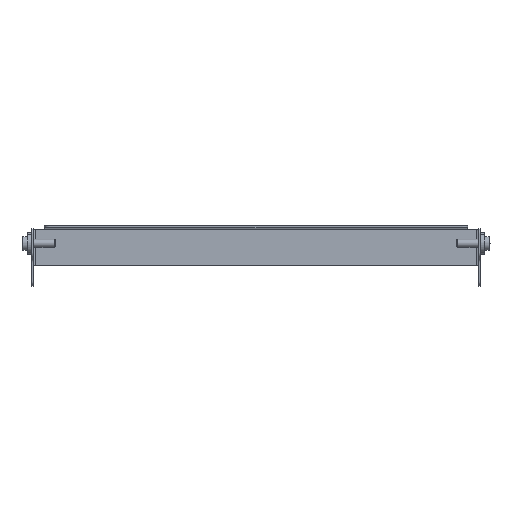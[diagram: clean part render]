
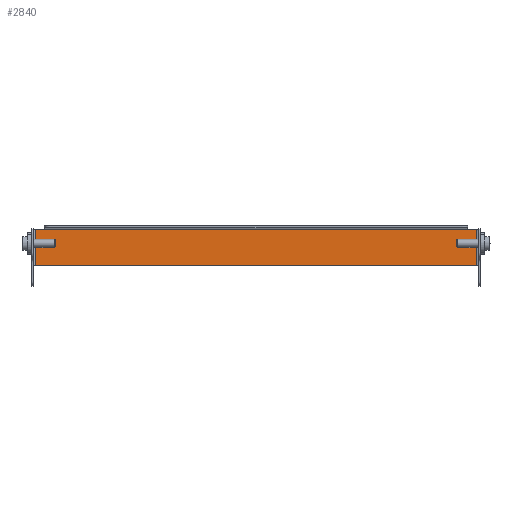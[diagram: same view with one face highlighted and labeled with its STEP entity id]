
A CAD part, top view. The second image highlights one B-rep face of the part: STEP entity #2840.
In plain terms, the highlighted planar face has unit normal (0, 0, 1).
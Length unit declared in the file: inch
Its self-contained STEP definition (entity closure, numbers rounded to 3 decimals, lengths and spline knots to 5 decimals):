
#17 = DIRECTION ( 'NONE',  ( 0., 0., 1. ) ) ;
#39 = VECTOR ( 'NONE', #714, 39.37008 ) ;
#111 = DIRECTION ( 'NONE',  ( 0., 1., 0. ) ) ;
#139 = CARTESIAN_POINT ( 'NONE',  ( 6.045, 0.8125, 0. ) ) ;
#303 = AXIS2_PLACEMENT_3D ( 'NONE', #4001, #17, #2357 ) ;
#328 = ORIENTED_EDGE ( 'NONE', *, *, #906, .F. ) ;
#470 = LINE ( 'NONE', #2979, #2143 ) ;
#610 = CARTESIAN_POINT ( 'NONE',  ( -6.045, 0.8125, 0. ) ) ;
#714 = DIRECTION ( 'NONE',  ( 0., -1., 0. ) ) ;
#851 = CARTESIAN_POINT ( 'NONE',  ( 6.3575, 0.8125, 0. ) ) ;
#868 = CARTESIAN_POINT ( 'NONE',  ( -6.3095, -0.22248, 0. ) ) ;
#887 = LINE ( 'NONE', #1535, #2559 ) ;
#906 = EDGE_CURVE ( 'NONE', #3199, #3948, #2752, .T. ) ;
#954 = EDGE_LOOP ( 'NONE', ( #3063, #4147, #2010, #1434, #1439, #328 ) ) ;
#1073 = CARTESIAN_POINT ( 'NONE',  ( -6.3095, 0.8125, 0. ) ) ;
#1307 = DIRECTION ( 'NONE',  ( -1., 0., 0. ) ) ;
#1347 = VERTEX_POINT ( 'NONE', #1698 ) ;
#1398 = CARTESIAN_POINT ( 'NONE',  ( 6.3095, 0.8125, 0. ) ) ;
#1434 = ORIENTED_EDGE ( 'NONE', *, *, #2648, .F. ) ;
#1439 = ORIENTED_EDGE ( 'NONE', *, *, #1682, .T. ) ;
#1535 = CARTESIAN_POINT ( 'NONE',  ( 6.3575, 0.8125, 0. ) ) ;
#1591 = VECTOR ( 'NONE', #2950, 39.37008 ) ;
#1682 = EDGE_CURVE ( 'NONE', #1347, #3948, #887, .T. ) ;
#1698 = CARTESIAN_POINT ( 'NONE',  ( -6.045, 0.8125, 0. ) ) ;
#1842 = FACE_OUTER_BOUND ( 'NONE', #954, .T. ) ;
#2010 = ORIENTED_EDGE ( 'NONE', *, *, #3169, .T. ) ;
#2025 = PLANE ( 'NONE',  #303 ) ;
#2143 = VECTOR ( 'NONE', #1307, 39.37008 ) ;
#2351 = VERTEX_POINT ( 'NONE', #139 ) ;
#2357 = DIRECTION ( 'NONE',  ( 1., 0., 0. ) ) ;
#2447 = CARTESIAN_POINT ( 'NONE',  ( -6.3095, -0.8125, 0. ) ) ;
#2559 = VECTOR ( 'NONE', #3520, 39.37008 ) ;
#2603 = LINE ( 'NONE', #1398, #39 ) ;
#2646 = VECTOR ( 'NONE', #111, 39.37008 ) ;
#2648 = EDGE_CURVE ( 'NONE', #1347, #2351, #3244, .T. ) ;
#2703 = EDGE_CURVE ( 'NONE', #3220, #3199, #470, .T. ) ;
#2752 = LINE ( 'NONE', #2447, #2646 ) ;
#2840 = ADVANCED_FACE ( 'NONE', ( #1842 ), #2025, .T. ) ;
#2950 = DIRECTION ( 'NONE',  ( 1., 0., 0. ) ) ;
#2979 = CARTESIAN_POINT ( 'NONE',  ( 0., -0.22248, 0. ) ) ;
#3063 = ORIENTED_EDGE ( 'NONE', *, *, #2703, .F. ) ;
#3169 = EDGE_CURVE ( 'NONE', #3684, #2351, #3553, .T. ) ;
#3199 = VERTEX_POINT ( 'NONE', #868 ) ;
#3220 = VERTEX_POINT ( 'NONE', #4195 ) ;
#3244 = LINE ( 'NONE', #610, #1591 ) ;
#3520 = DIRECTION ( 'NONE',  ( -1., 0., 0. ) ) ;
#3553 = LINE ( 'NONE', #851, #4213 ) ;
#3684 = VERTEX_POINT ( 'NONE', #4248 ) ;
#3855 = DIRECTION ( 'NONE',  ( -1., 0., 0. ) ) ;
#3925 = EDGE_CURVE ( 'NONE', #3684, #3220, #2603, .T. ) ;
#3948 = VERTEX_POINT ( 'NONE', #1073 ) ;
#4001 = CARTESIAN_POINT ( 'NONE',  ( 0., 0., 0. ) ) ;
#4147 = ORIENTED_EDGE ( 'NONE', *, *, #3925, .F. ) ;
#4195 = CARTESIAN_POINT ( 'NONE',  ( 6.3095, -0.22248, 0. ) ) ;
#4213 = VECTOR ( 'NONE', #3855, 39.37008 ) ;
#4248 = CARTESIAN_POINT ( 'NONE',  ( 6.3095, 0.8125, 0. ) ) ;
